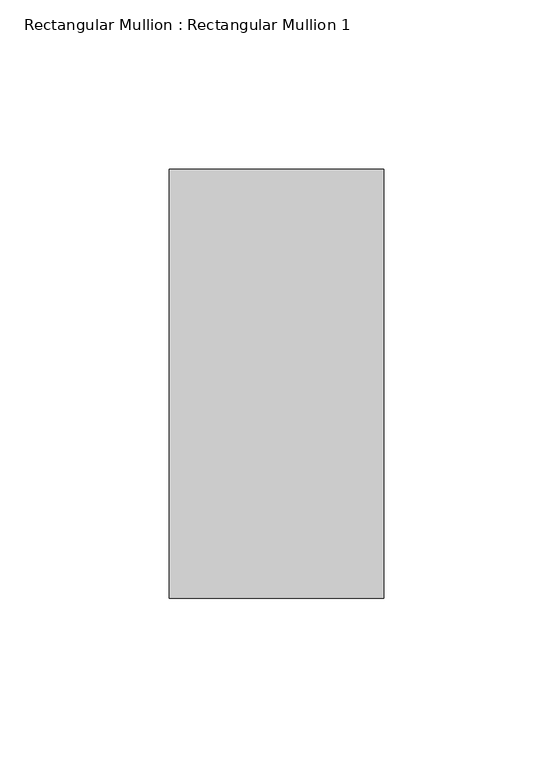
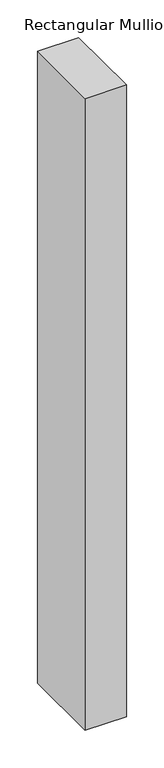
"""IFC4 building model written with IfcOpenShell, lengths in millimetres: member geometry, Rectangular Mullion : Rectangular Mullion 1."""

from ifc_helpers import new_model, si_unit, frame, origin, place, context, project, spatial, polyline, outline, extrude, source, transform, mapped, element, save


def rectangular_mullion_rectangular_mullion_1_47e5d6da(model_context):
    return source(origin(), model_context, "Body", "SweptSolid", [
        extrude(outline(polyline([(31.75, 63.5), (31.75, -63.5), (-31.75, -63.5), (-31.75, 63.5), (31.75, 63.5)])), frame((0.0, 0.0, -1027.0854522), z_axis=(0.0, 0.0, 1.0), x_axis=(1.0, 0.0, 0.0)), (0.0, 0.0, 1.0), 1027.0854522),
    ])


if __name__ == "__main__":
    model = new_model("IFC4")
    model_context = context("Model", 3, world=origin())
    ifc_project = project(units=[si_unit("LENGTHUNIT", "METRE", prefix="MILLI")], contexts=[model_context])
    site = spatial("IfcSite", under=ifc_project)
    building = spatial("IfcBuilding", under=site)
    placement = place(None, origin())
    rectangular_mullion_rectangular_mullion_1_shape = rectangular_mullion_rectangular_mullion_1_47e5d6da(model_context)
    element("IfcMember", 1, ObjectType="Rectangular Mullion : Rectangular Mullion 1", at=placement, inside=building, context=model_context, shape_type="MappedRepresentation", body=[
        mapped(rectangular_mullion_rectangular_mullion_1_shape, transform((0.0, 0.0, 0.0), x_axis=(1.0, 0.0, 0.0), y_axis=(0.0, 1.0, 0.0), z_axis=(0.0, 0.0, 1.0))),
    ])
    save(model, "model.ifc")
